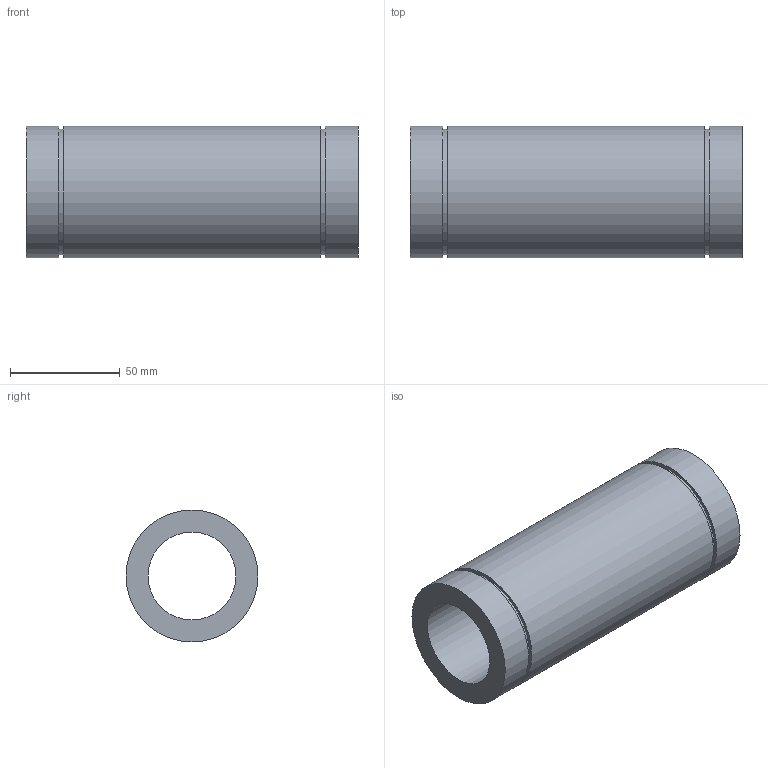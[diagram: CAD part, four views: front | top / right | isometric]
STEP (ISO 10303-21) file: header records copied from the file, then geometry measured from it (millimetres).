
FILE_DESCRIPTION(/* description */ ('Unknown'),/* implementation_level */ '2;1');
FILE_NAME(/* name */ 'LM40LUU',/* time_stamp */ '2025-02-03T15:04:47+08:00',/* author */ ('Unknown'),/* organization */ ('Unknown'),/* preprocessor_version */ 'ST-DEVELOPER v18.102',/* originating_system */ 'Solid Edge',/* authorisation */ 'Unknown');
FILE_SCHEMA (('AUTOMOTIVE_DESIGN {1 0 10303 214 3 1 1}'));
Length unit declared in the file: millimetre
Products named in the file (1): LM40LUU
Bounding box: 151 x 60 x 60 mm (x, y, z)
Volume: 236032.4 mm3; surface area: 51642.8 mm2
Topology: 1 solids, 1 shells, 12 faces, 20 edges, 14 vertices
Faces by surface type: cylinder 6, plane 6
Full cylindrical faces by diameter (mm): 40 x1, 57 x2, 60 x3
Entity records: 278 total; most frequent: DIRECTION 50, CARTESIAN_POINT 37, AXIS2_PLACEMENT_3D 25, ORIENTED_EDGE 24, EDGE_LOOP 24, FACE_BOUND 24, EDGE_CURVE 12, VERTEX_POINT 12
